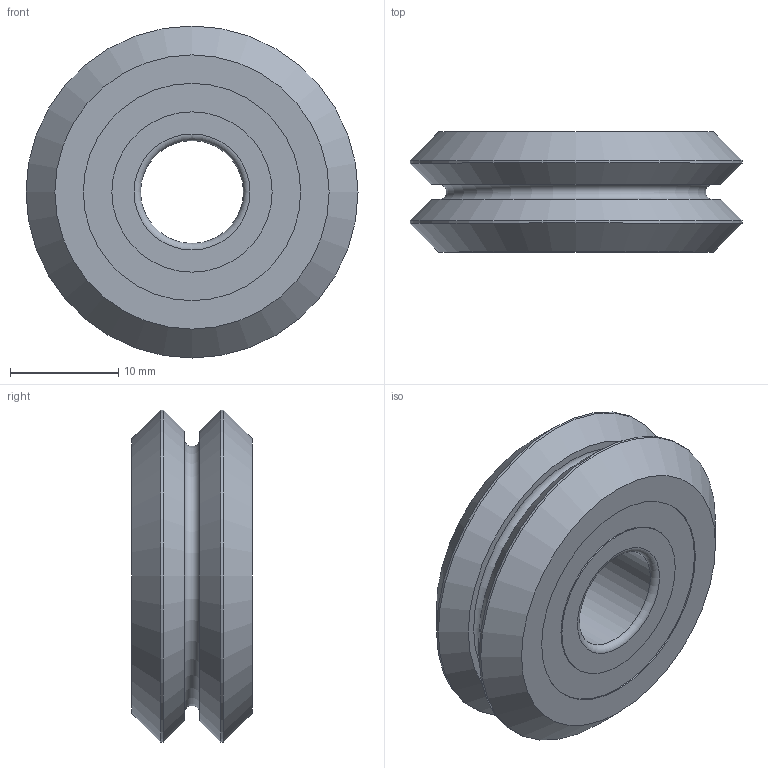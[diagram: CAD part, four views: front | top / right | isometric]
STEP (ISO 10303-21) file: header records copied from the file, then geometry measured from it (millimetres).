
FILE_DESCRIPTION(('STEP AP203'),'1');
FILE_NAME('W2SSX.stp','2020-09-30T01:57:15',(' '),(' '),'Spatial InterOp 3D',' ',' ');
FILE_SCHEMA(('CONFIG_CONTROL_DESIGN'));
Length unit declared in the file: millimetre
Products named in the file (1): W2SSX
Bounding box: 30.73 x 11.13 x 30.73 mm (x, y, z)
Volume: 6028.8 mm3; surface area: 2709.7 mm2
Topology: 1 solids, 1 shells, 22 faces, 36 edges, 22 vertices
Faces by surface type: plane 8, cylinder 7, cone 4, torus 3
Full cylindrical faces by diameter (mm): 9.53 x1, 14.834 x2, 20.117 x2, 30.73 x2
Entity records: 510 total; most frequent: DIRECTION 90, CARTESIAN_POINT 67, AXIS2_PLACEMENT_3D 45, EDGE_LOOP 44, ORIENTED_EDGE 44, FACE_OUTER_BOUND 32, ADVANCED_FACE 22, EDGE_CURVE 22
